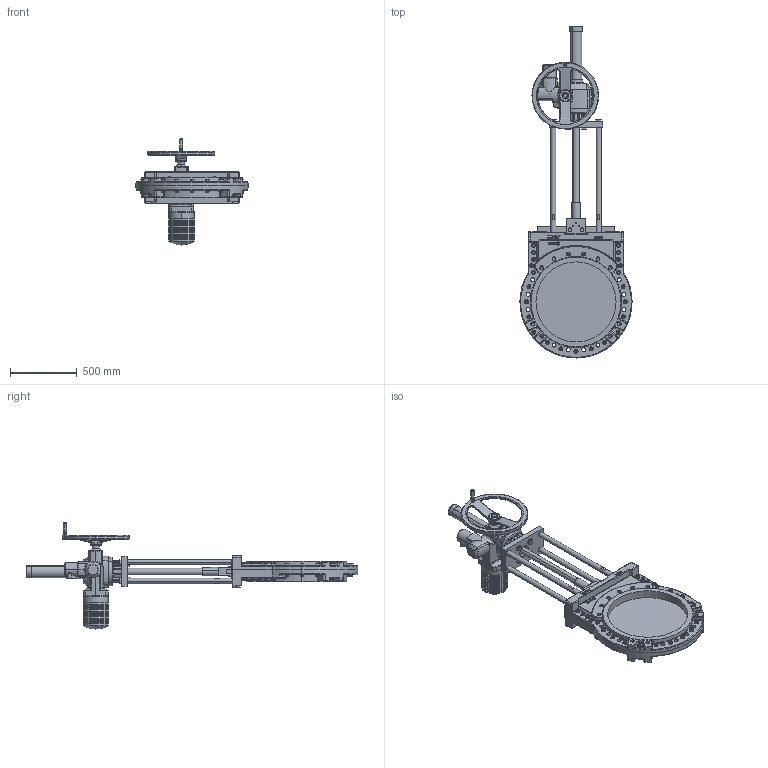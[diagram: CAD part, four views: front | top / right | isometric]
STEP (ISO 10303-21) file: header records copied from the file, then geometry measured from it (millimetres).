
FILE_DESCRIPTION (( 'STEP AP214' ), '1' );
FILE_NAME ('MGE DN 0600 PN10 (SA 16.2).STEP', '2015-09-23T08:44:03', ( 'admin' ), ( 'Hewlett-Packard Company' ), 'SwSTEP 2.0', 'SolidWorks 2013', '' );
FILE_SCHEMA (( 'AUTOMOTIVE_DESIGN' ));
Length unit declared in the file: millimetre
Products named in the file (1): MGE DN 0600 PN10 (SA 16.2)
Bounding box: 840 x 2486 x 795 mm (x, y, z)
Volume: 93162651.6 mm3; surface area: 5037946.4 mm2
Topology: 120 solids, 131 shells, 4084 faces, 9358 edges, 5574 vertices
Faces by surface type: plane 1398, cylinder 1111, cone 793, bspline 450, torus 287, sphere 45
Entity records: 193413 total; most frequent: CARTESIAN_POINT 58369, ORIENTED_EDGE 18436, DIRECTION 18371, EDGE_CURVE 9218, AXIS2_PLACEMENT_3D 7496, VERTEX_POINT 5574, EDGE_LOOP 4536, UNCERTAINTY_MEASURE_WITH_UNIT 4204
